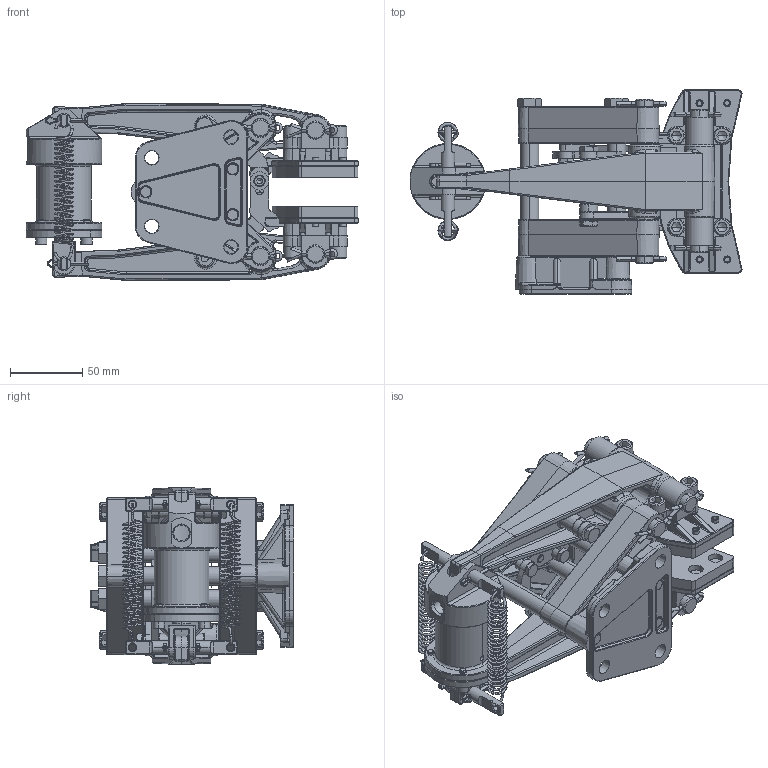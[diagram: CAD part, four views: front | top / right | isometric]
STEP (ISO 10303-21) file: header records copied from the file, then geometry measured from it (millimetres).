
FILE_DESCRIPTION (( 'STEP AP214' ), '1' );
FILE_NAME ('5019-H.STEP', '2025-05-14T01:31:28', ( '' ), ( '' ), 'SwSTEP 2.0', 'SolidWorks 2023', '' );
FILE_SCHEMA (( 'AUTOMOTIVE_DESIGN' ));
Length unit declared in the file: inch
Products named in the file (1): 5019-H
Bounding box: 230.38 x 141.52 x 122.74 mm (x, y, z)
Surface area: 284735.8 mm2 (no closed solid volume)
Topology: 0 solids, 115 shells, 2267 faces, 6379 edges, 4078 vertices
Faces by surface type: plane 659, cylinder 638, cone 371, bspline 327, torus 264, sphere 8
Entity records: 107556 total; most frequent: CARTESIAN_POINT 52774, DIRECTION 11350, ORIENTED_EDGE 10955, EDGE_CURVE 6299, AXIS2_PLACEMENT_3D 4442, VERTEX_POINT 4078, EDGE_LOOP 2511, CIRCLE 2501
